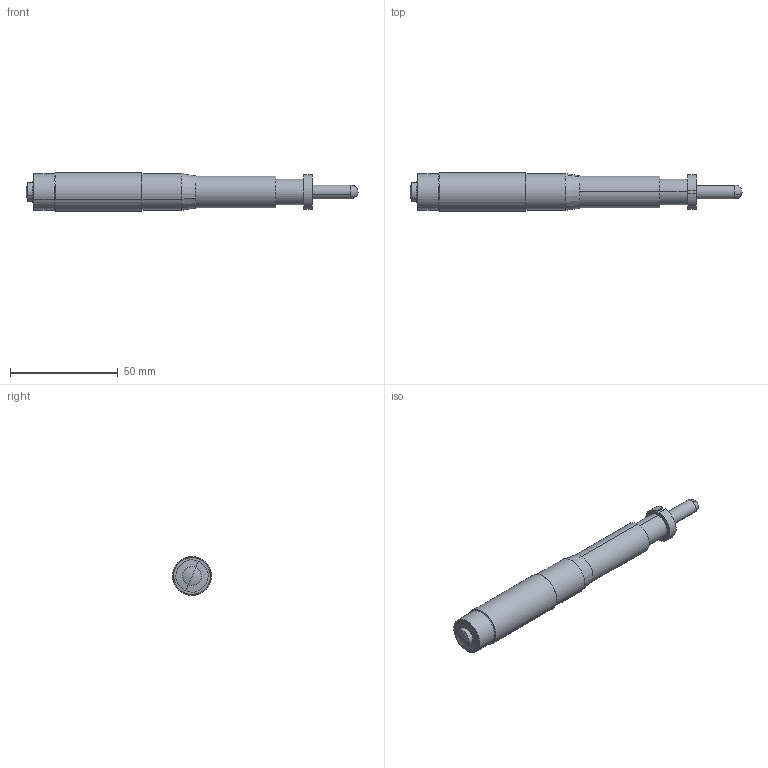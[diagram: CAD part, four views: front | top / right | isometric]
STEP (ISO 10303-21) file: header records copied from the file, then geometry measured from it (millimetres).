
FILE_DESCRIPTION (( 'STEP AP203' ), '1' );
FILE_NAME ('MT50-4.STEP', '2020-01-03T02:24:50', ( 'User' ), ( 'No' ), 'SwSTEP 2.0', 'SolidWorks 2012', '' );
FILE_SCHEMA (( 'CONFIG_CONTROL_DESIGN' ));
Length unit declared in the file: millimetre
Products named in the file (4): MT50-1_b_customer; MT50-4; MT50-3_a_customer; 螺母
Assembly tree (3 placements, depth 2):
  MT50-4
    MT50-1_b_customer
    MT50-3_a_customer
    螺母
Bounding box: 154 x 17.98 x 17.98 mm (x, y, z)
Volume: 21031.4 mm3; surface area: 16663.9 mm2
Topology: 3 solids, 3 shells, 145 faces, 369 edges, 242 vertices
Faces by surface type: bspline 49, plane 48, cylinder 32, torus 6, sphere 6, cone 4
Entity records: 10533 total; most frequent: CARTESIAN_POINT 6969, ORIENTED_EDGE 734, DIRECTION 526, EDGE_CURVE 367, VERTEX_POINT 242, AXIS2_PLACEMENT_3D 220, B_SPLINE_CURVE_WITH_KNOTS 163, EDGE_LOOP 163
